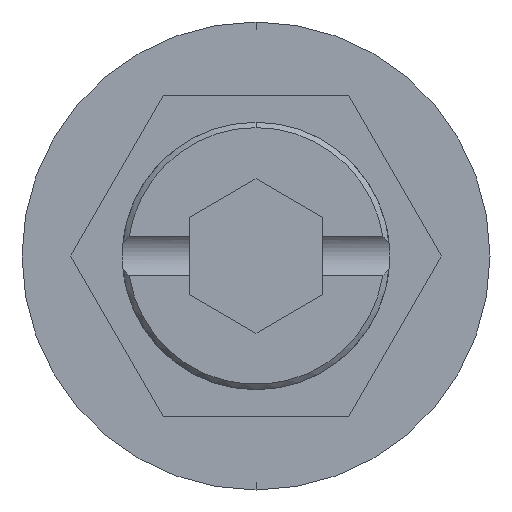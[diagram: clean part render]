
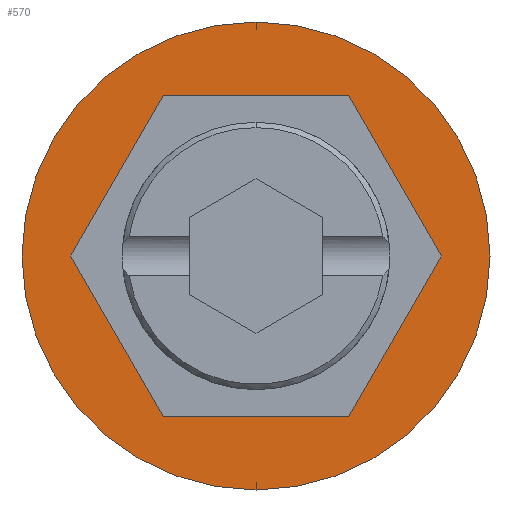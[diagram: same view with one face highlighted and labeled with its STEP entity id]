
A CAD part, front view. The second image highlights one B-rep face of the part: STEP entity #570.
In plain terms, the highlighted planar face has unit normal (0, -1, 0).
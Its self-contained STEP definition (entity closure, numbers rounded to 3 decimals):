
#1 = VECTOR ( 'NONE', #1256, 1000. ) ;
#7 = LINE ( 'NONE', #1252, #1 ) ;
#34 = VECTOR ( 'NONE', #1880, 1000. ) ;
#47 = LINE ( 'NONE', #1857, #34 ) ;
#60 = CARTESIAN_POINT ( 'NONE',  ( -3.464, 0., 6. ) ) ;
#83 = VECTOR ( 'NONE', #1671, 1000. ) ;
#88 = LINE ( 'NONE', #1903, #83 ) ;
#117 = VECTOR ( 'NONE', #1958, 1000. ) ;
#135 = LINE ( 'NONE', #1509, #117 ) ;
#158 = CARTESIAN_POINT ( 'NONE',  ( 3.464, 0., -6. ) ) ;
#369 = FACE_BOUND ( 'NONE', #1032, .T. ) ;
#380 = FACE_OUTER_BOUND ( 'NONE', #1017, .T. ) ;
#483 = AXIS2_PLACEMENT_3D ( 'NONE', #740, #794, #711 ) ;
#534 = CARTESIAN_POINT ( 'NONE',  ( -6.928, 0., 0. ) ) ;
#544 = VECTOR ( 'NONE', #1970, 1000. ) ;
#570 = ADVANCED_FACE ( 'NONE', ( #369, #380 ), #788, .T. ) ;
#711 = DIRECTION ( 'NONE',  ( 0., 0., -1. ) ) ;
#735 = LINE ( 'NONE', #2023, #544 ) ;
#740 = CARTESIAN_POINT ( 'NONE',  ( 0., 0., 0. ) ) ;
#788 = PLANE ( 'NONE',  #483 ) ;
#794 = DIRECTION ( 'NONE',  ( 0., -1., 0. ) ) ;
#798 = CARTESIAN_POINT ( 'NONE',  ( 0., 0., -8.75 ) ) ;
#831 = CARTESIAN_POINT ( 'NONE',  ( 3.464, 0., 6. ) ) ;
#887 = VERTEX_POINT ( 'NONE', #1913 ) ;
#911 = VERTEX_POINT ( 'NONE', #2012 ) ;
#927 = ORIENTED_EDGE ( 'NONE', *, *, #1510, .T. ) ;
#932 = ORIENTED_EDGE ( 'NONE', *, *, #1397, .T. ) ;
#941 = ORIENTED_EDGE ( 'NONE', *, *, #1431, .F. ) ;
#951 = ORIENTED_EDGE ( 'NONE', *, *, #1337, .F. ) ;
#961 = ORIENTED_EDGE ( 'NONE', *, *, #1223, .F. ) ;
#967 = ORIENTED_EDGE ( 'NONE', *, *, #1112, .F. ) ;
#977 = ORIENTED_EDGE ( 'NONE', *, *, #1046, .F. ) ;
#983 = ORIENTED_EDGE ( 'NONE', *, *, #1997, .F. ) ;
#1008 = DIRECTION ( 'NONE',  ( 0., 0., -1. ) ) ;
#1017 = EDGE_LOOP ( 'NONE', ( #932, #927 ) ) ;
#1021 = DIRECTION ( 'NONE',  ( 0., -1., 0. ) ) ;
#1023 = CARTESIAN_POINT ( 'NONE',  ( 0., 0., 0. ) ) ;
#1032 = EDGE_LOOP ( 'NONE', ( #983, #977, #967, #961, #951, #941 ) ) ;
#1046 = EDGE_CURVE ( 'NONE', #1719, #911, #135, .T. ) ;
#1112 = EDGE_CURVE ( 'NONE', #1927, #1719, #88, .T. ) ;
#1223 = EDGE_CURVE ( 'NONE', #1629, #1927, #47, .T. ) ;
#1252 = CARTESIAN_POINT ( 'NONE',  ( 6.928, 0., 0. ) ) ;
#1256 = DIRECTION ( 'NONE',  ( -0.5, 0., 0.866 ) ) ;
#1337 = EDGE_CURVE ( 'NONE', #887, #1629, #7, .T. ) ;
#1350 = CARTESIAN_POINT ( 'NONE',  ( 0., 0., 0. ) ) ;
#1353 = DIRECTION ( 'NONE',  ( 0., -1., 0. ) ) ;
#1355 = DIRECTION ( 'NONE',  ( 0., 0., -1. ) ) ;
#1356 = CARTESIAN_POINT ( 'NONE',  ( 3.464, 0., -6. ) ) ;
#1378 = CARTESIAN_POINT ( 'NONE',  ( 0., 0., 8.75 ) ) ;
#1384 = DIRECTION ( 'NONE',  ( 0.5, 0., 0.866 ) ) ;
#1397 = EDGE_CURVE ( 'NONE', #1652, #1441, #2099, .T. ) ;
#1431 = EDGE_CURVE ( 'NONE', #1888, #887, #2048, .T. ) ;
#1441 = VERTEX_POINT ( 'NONE', #1378 ) ;
#1509 = CARTESIAN_POINT ( 'NONE',  ( -6.928, 0., 0. ) ) ;
#1510 = EDGE_CURVE ( 'NONE', #1441, #1652, #1839, .T. ) ;
#1629 = VERTEX_POINT ( 'NONE', #831 ) ;
#1652 = VERTEX_POINT ( 'NONE', #798 ) ;
#1671 = DIRECTION ( 'NONE',  ( -0.5, 0., -0.866 ) ) ;
#1719 = VERTEX_POINT ( 'NONE', #534 ) ;
#1839 = CIRCLE ( 'NONE', #1922, 8.75 ) ;
#1857 = CARTESIAN_POINT ( 'NONE',  ( 3.464, 0., 6. ) ) ;
#1880 = DIRECTION ( 'NONE',  ( -1., 0., 0. ) ) ;
#1888 = VERTEX_POINT ( 'NONE', #158 ) ;
#1903 = CARTESIAN_POINT ( 'NONE',  ( -3.464, 0., 6. ) ) ;
#1913 = CARTESIAN_POINT ( 'NONE',  ( 6.928, 0., 0. ) ) ;
#1922 = AXIS2_PLACEMENT_3D ( 'NONE', #1023, #1021, #1008 ) ;
#1927 = VERTEX_POINT ( 'NONE', #60 ) ;
#1958 = DIRECTION ( 'NONE',  ( 0.5, 0., -0.866 ) ) ;
#1970 = DIRECTION ( 'NONE',  ( 1., 0., 0. ) ) ;
#1997 = EDGE_CURVE ( 'NONE', #911, #1888, #735, .T. ) ;
#2012 = CARTESIAN_POINT ( 'NONE',  ( -3.464, 0., -6. ) ) ;
#2023 = CARTESIAN_POINT ( 'NONE',  ( -3.464, 0., -6. ) ) ;
#2028 = AXIS2_PLACEMENT_3D ( 'NONE', #1350, #1353, #1355 ) ;
#2034 = VECTOR ( 'NONE', #1384, 1000. ) ;
#2048 = LINE ( 'NONE', #1356, #2034 ) ;
#2099 = CIRCLE ( 'NONE', #2028, 8.75 ) ;
